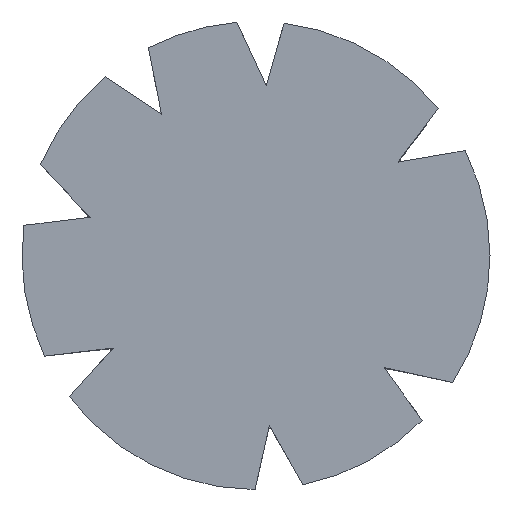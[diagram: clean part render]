
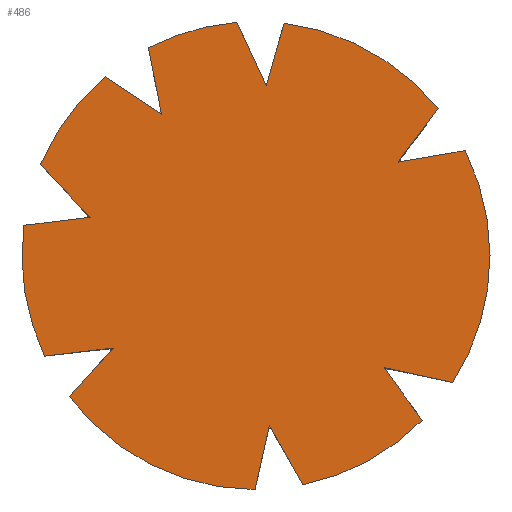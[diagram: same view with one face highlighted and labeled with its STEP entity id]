
A CAD part, top view. The second image highlights one B-rep face of the part: STEP entity #486.
In plain terms, the highlighted planar face has unit normal (0, 0, 1).
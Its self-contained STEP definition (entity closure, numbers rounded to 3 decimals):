
#52=PLANE('',#546);
#79=FACE_OUTER_BOUND('',#105,.T.);
#105=EDGE_LOOP('',(#438,#439,#440,#441,#442,#443,#444,#445,#446,#447,#448,
#449,#450,#451,#452,#453,#454,#455,#456,#457,#458,#459));
#111=LINE('',#709,#148);
#112=LINE('',#718,#149);
#116=LINE('',#736,#153);
#117=LINE('',#745,#154);
#121=LINE('',#763,#158);
#122=LINE('',#772,#159);
#126=LINE('',#790,#163);
#127=LINE('',#799,#164);
#131=LINE('',#817,#168);
#132=LINE('',#826,#169);
#136=LINE('',#844,#173);
#137=LINE('',#853,#174);
#141=LINE('',#871,#178);
#142=LINE('',#880,#179);
#148=VECTOR('',#574,10.);
#149=VECTOR('',#577,10.);
#153=VECTOR('',#587,10.);
#154=VECTOR('',#590,10.);
#158=VECTOR('',#600,10.);
#159=VECTOR('',#603,10.);
#163=VECTOR('',#613,10.);
#164=VECTOR('',#616,10.);
#168=VECTOR('',#626,10.);
#169=VECTOR('',#629,10.);
#173=VECTOR('',#639,10.);
#174=VECTOR('',#642,10.);
#178=VECTOR('',#652,10.);
#179=VECTOR('',#655,10.);
#191=CIRCLE('',#537,5.5);
#192=CIRCLE('',#538,5.5);
#193=CIRCLE('',#539,5.5);
#194=CIRCLE('',#540,5.5);
#196=CIRCLE('',#542,5.5);
#197=CIRCLE('',#543,5.5);
#198=CIRCLE('',#544,5.5);
#199=CIRCLE('',#545,5.5);
#207=VERTEX_POINT('',#700);
#208=VERTEX_POINT('',#707);
#209=VERTEX_POINT('',#711);
#213=VERTEX_POINT('',#727);
#214=VERTEX_POINT('',#734);
#215=VERTEX_POINT('',#738);
#219=VERTEX_POINT('',#754);
#220=VERTEX_POINT('',#761);
#221=VERTEX_POINT('',#765);
#225=VERTEX_POINT('',#781);
#226=VERTEX_POINT('',#788);
#227=VERTEX_POINT('',#792);
#231=VERTEX_POINT('',#808);
#232=VERTEX_POINT('',#815);
#233=VERTEX_POINT('',#819);
#237=VERTEX_POINT('',#835);
#238=VERTEX_POINT('',#842);
#239=VERTEX_POINT('',#846);
#243=VERTEX_POINT('',#862);
#244=VERTEX_POINT('',#869);
#245=VERTEX_POINT('',#873);
#246=VERTEX_POINT('',#885);
#258=EDGE_CURVE('',#207,#208,#111,.T.);
#260=EDGE_CURVE('',#208,#209,#112,.T.);
#266=EDGE_CURVE('',#213,#214,#116,.T.);
#268=EDGE_CURVE('',#214,#215,#117,.T.);
#274=EDGE_CURVE('',#219,#220,#121,.T.);
#276=EDGE_CURVE('',#220,#221,#122,.T.);
#282=EDGE_CURVE('',#225,#226,#126,.T.);
#284=EDGE_CURVE('',#226,#227,#127,.T.);
#290=EDGE_CURVE('',#231,#232,#131,.T.);
#292=EDGE_CURVE('',#232,#233,#132,.T.);
#298=EDGE_CURVE('',#237,#238,#136,.T.);
#300=EDGE_CURVE('',#238,#239,#137,.T.);
#306=EDGE_CURVE('',#243,#244,#141,.T.);
#308=EDGE_CURVE('',#244,#245,#142,.T.);
#309=EDGE_CURVE('',#207,#233,#191,.T.);
#310=EDGE_CURVE('',#231,#239,#192,.T.);
#311=EDGE_CURVE('',#237,#221,#193,.T.);
#312=EDGE_CURVE('',#219,#246,#194,.T.);
#314=EDGE_CURVE('',#246,#227,#196,.T.);
#315=EDGE_CURVE('',#225,#245,#197,.T.);
#316=EDGE_CURVE('',#243,#215,#198,.T.);
#317=EDGE_CURVE('',#213,#209,#199,.T.);
#438=ORIENTED_EDGE('',*,*,#260,.T.);
#439=ORIENTED_EDGE('',*,*,#317,.F.);
#440=ORIENTED_EDGE('',*,*,#266,.T.);
#441=ORIENTED_EDGE('',*,*,#268,.T.);
#442=ORIENTED_EDGE('',*,*,#316,.F.);
#443=ORIENTED_EDGE('',*,*,#306,.T.);
#444=ORIENTED_EDGE('',*,*,#308,.T.);
#445=ORIENTED_EDGE('',*,*,#315,.F.);
#446=ORIENTED_EDGE('',*,*,#282,.T.);
#447=ORIENTED_EDGE('',*,*,#284,.T.);
#448=ORIENTED_EDGE('',*,*,#314,.F.);
#449=ORIENTED_EDGE('',*,*,#312,.F.);
#450=ORIENTED_EDGE('',*,*,#274,.T.);
#451=ORIENTED_EDGE('',*,*,#276,.T.);
#452=ORIENTED_EDGE('',*,*,#311,.F.);
#453=ORIENTED_EDGE('',*,*,#298,.T.);
#454=ORIENTED_EDGE('',*,*,#300,.T.);
#455=ORIENTED_EDGE('',*,*,#310,.F.);
#456=ORIENTED_EDGE('',*,*,#290,.T.);
#457=ORIENTED_EDGE('',*,*,#292,.T.);
#458=ORIENTED_EDGE('',*,*,#309,.F.);
#459=ORIENTED_EDGE('',*,*,#258,.T.);
#486=ADVANCED_FACE('',(#79),#52,.T.);
#537=AXIS2_PLACEMENT_3D('',#882,#658,#659);
#538=AXIS2_PLACEMENT_3D('',#883,#660,#661);
#539=AXIS2_PLACEMENT_3D('',#884,#662,#663);
#540=AXIS2_PLACEMENT_3D('',#886,#664,#665);
#542=AXIS2_PLACEMENT_3D('',#888,#668,#669);
#543=AXIS2_PLACEMENT_3D('',#889,#670,#671);
#544=AXIS2_PLACEMENT_3D('',#890,#672,#673);
#545=AXIS2_PLACEMENT_3D('',#891,#674,#675);
#546=AXIS2_PLACEMENT_3D('',#892,#676,#677);
#574=DIRECTION('',(0.688,-0.726,0.));
#577=DIRECTION('',(-0.993,-0.121,0.));
#587=DIRECTION('',(0.993,0.119,0.));
#590=DIRECTION('',(-0.669,-0.743,0.));
#600=DIRECTION('',(-0.986,-0.168,0.));
#603=DIRECTION('',(0.602,0.798,0.));
#613=DIRECTION('',(-0.585,0.811,0.));
#616=DIRECTION('',(0.977,-0.213,0.));
#626=DIRECTION('',(0.197,-0.98,0.));
#629=DIRECTION('',(-0.834,0.552,0.));
#639=DIRECTION('',(-0.274,-0.962,0.));
#642=DIRECTION('',(-0.421,0.907,0.));
#652=DIRECTION('',(0.216,0.976,0.));
#655=DIRECTION('',(0.488,-0.873,0.));
#658=DIRECTION('center_axis',(0.,0.,-1.));
#659=DIRECTION('ref_axis',(1.,0.,0.));
#660=DIRECTION('center_axis',(0.,0.,-1.));
#661=DIRECTION('ref_axis',(1.,0.,0.));
#662=DIRECTION('center_axis',(0.,0.,-1.));
#663=DIRECTION('ref_axis',(1.,0.,0.));
#664=DIRECTION('center_axis',(0.,0.,-1.));
#665=DIRECTION('ref_axis',(1.,0.,0.));
#668=DIRECTION('center_axis',(0.,0.,-1.));
#669=DIRECTION('ref_axis',(1.,0.,0.));
#670=DIRECTION('center_axis',(0.,0.,-1.));
#671=DIRECTION('ref_axis',(1.,0.,0.));
#672=DIRECTION('center_axis',(0.,0.,-1.));
#673=DIRECTION('ref_axis',(1.,0.,0.));
#674=DIRECTION('center_axis',(0.,0.,-1.));
#675=DIRECTION('ref_axis',(1.,0.,0.));
#676=DIRECTION('center_axis',(0.,0.,1.));
#677=DIRECTION('ref_axis',(1.,0.,0.));
#700=CARTESIAN_POINT('',(92.432,2.138,80.));
#707=CARTESIAN_POINT('',(93.603,0.901,80.));
#709=CARTESIAN_POINT('',(92.791,1.759,80.));
#711=CARTESIAN_POINT('',(92.046,0.711,80.));
#718=CARTESIAN_POINT('',(95.799,1.169,80.));
#727=CARTESIAN_POINT('',(92.534,-2.363,80.));
#734=CARTESIAN_POINT('',(94.141,-2.172,80.));
#736=CARTESIAN_POINT('',(95.445,-2.016,80.));
#738=CARTESIAN_POINT('',(93.112,-3.315,80.));
#745=CARTESIAN_POINT('',(96.799,0.783,80.));
#754=CARTESIAN_POINT('',(102.415,2.468,80.));
#761=CARTESIAN_POINT('',(100.841,2.2,80.));
#763=CARTESIAN_POINT('',(100.277,2.104,80.));
#765=CARTESIAN_POINT('',(101.784,3.45,80.));
#772=CARTESIAN_POINT('',(101.028,2.449,80.));
#781=CARTESIAN_POINT('',(101.406,-3.872,80.));
#788=CARTESIAN_POINT('',(100.512,-2.632,80.));
#790=CARTESIAN_POINT('',(98.515,0.138,80.));
#792=CARTESIAN_POINT('',(102.121,-2.982,80.));
#799=CARTESIAN_POINT('',(98.229,-2.135,80.));
#808=CARTESIAN_POINT('',(94.969,4.883,80.));
#815=CARTESIAN_POINT('',(95.281,3.328,80.));
#817=CARTESIAN_POINT('',(94.958,4.935,80.));
#819=CARTESIAN_POINT('',(93.955,4.205,80.));
#826=CARTESIAN_POINT('',(95.552,3.148,80.));
#835=CARTESIAN_POINT('',(98.159,5.46,80.));
#842=CARTESIAN_POINT('',(97.742,3.993,80.));
#844=CARTESIAN_POINT('',(98.14,5.392,80.));
#846=CARTESIAN_POINT('',(97.051,5.482,80.));
#853=CARTESIAN_POINT('',(97.433,4.659,80.));
#862=CARTESIAN_POINT('',(97.479,-5.5,80.));
#869=CARTESIAN_POINT('',(97.814,-3.988,80.));
#871=CARTESIAN_POINT('',(98.641,-0.255,80.));
#873=CARTESIAN_POINT('',(98.598,-5.389,80.));
#880=CARTESIAN_POINT('',(95.755,-0.308,80.));
#882=CARTESIAN_POINT('Origin',(97.5,0.,80.));
#883=CARTESIAN_POINT('Origin',(97.5,0.,80.));
#884=CARTESIAN_POINT('Origin',(97.5,0.,80.));
#885=CARTESIAN_POINT('',(103.,0.,80.));
#886=CARTESIAN_POINT('Origin',(97.5,0.,80.));
#888=CARTESIAN_POINT('Origin',(97.5,0.,80.));
#889=CARTESIAN_POINT('Origin',(97.5,0.,80.));
#890=CARTESIAN_POINT('Origin',(97.5,0.,80.));
#891=CARTESIAN_POINT('Origin',(97.5,0.,80.));
#892=CARTESIAN_POINT('Origin',(97.5,5.5,80.));
